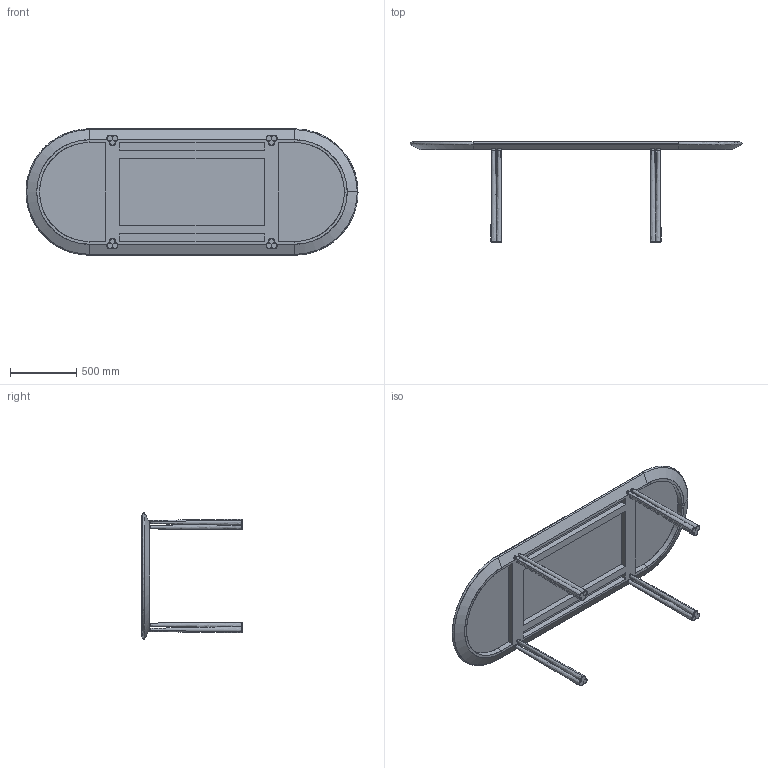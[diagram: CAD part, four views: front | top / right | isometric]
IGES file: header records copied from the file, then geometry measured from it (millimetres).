
Start section: SolidWorks IGES file using analytic representation for surfaces
Global section: file name: E:\Box Sync\Jason Miller\051 Elliot Dining Table\sales related\SW\051M Elliot Dining Table\051M Elliot Dining Table.IGS; native system: SolidWorks 2016; preprocessor: SolidWorks 2016; author: Kumagai; date: 180320.181113; units: millimetre
Bounding box: 2499.76 x 753.5 x 950 mm (x, y, z)
Surface area: 6042795.2 mm2 (no closed solid volume)
Topology: 0 solids, 0 shells, 223 faces, 5252 edges, 5252 vertices
Faces by surface type: bspline 161, revolution 62
